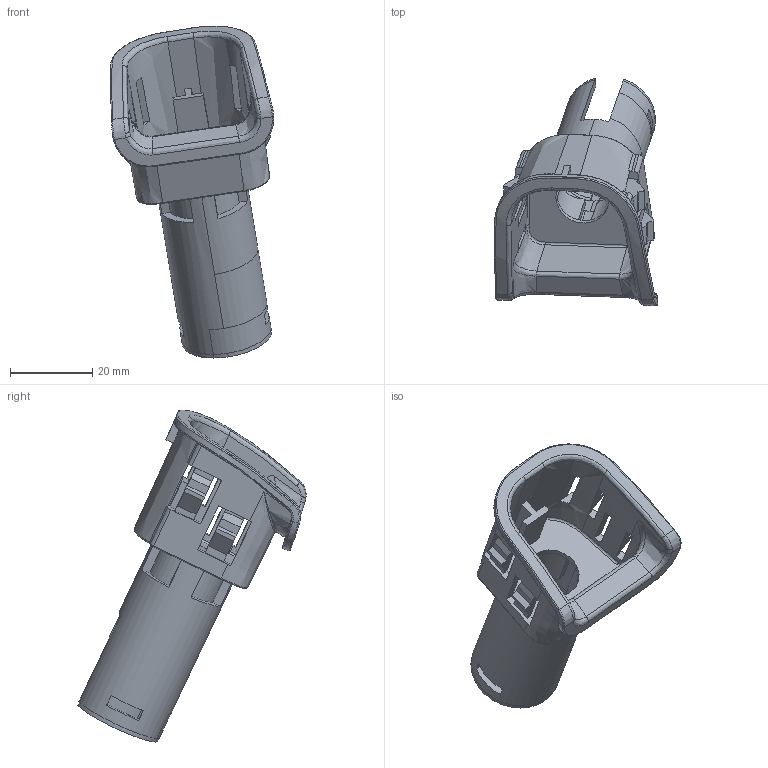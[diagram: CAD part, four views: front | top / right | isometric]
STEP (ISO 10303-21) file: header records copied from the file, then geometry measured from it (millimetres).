
FILE_DESCRIPTION(('CATIA V5 STEP Exchange','CAx-IF Rec.Pracs.--- Model Styling and Organization---1.4--- 2014-01-23'),'2;1');
FILE_NAME('C:\Users\luhaitao\Desktop\塑料件平台项目\样件清单2\08.stp','2025-06-13T03:38:24+00:00',('none'),('none'),'CATIA Version 5-6 Release 2017','CATIA V5 STEP AP214','none');
FILE_SCHEMA(('AUTOMOTIVE_DESIGN { 1 0 10303 214 1 1 1 1 }'));
Length unit declared in the file: millimetre
Products named in the file (1): 08-2
Bounding box: 39.83 x 55.64 x 80.92 mm (x, y, z)
Volume: 13271.1 mm3; surface area: 14097.4 mm2
Topology: 1 solids, 1 shells, 295 faces, 898 edges, 591 vertices
Faces by surface type: bspline 123, plane 120, cylinder 43, extrusion 9
Entity records: 22168 total; most frequent: CARTESIAN_POINT 15754, ORIENTED_EDGE 1792, EDGE_CURVE 896, DIRECTION 601, VERTEX_POINT 591, B_SPLINE_CURVE_WITH_KNOTS 499, VECTOR 330, LINE 321
